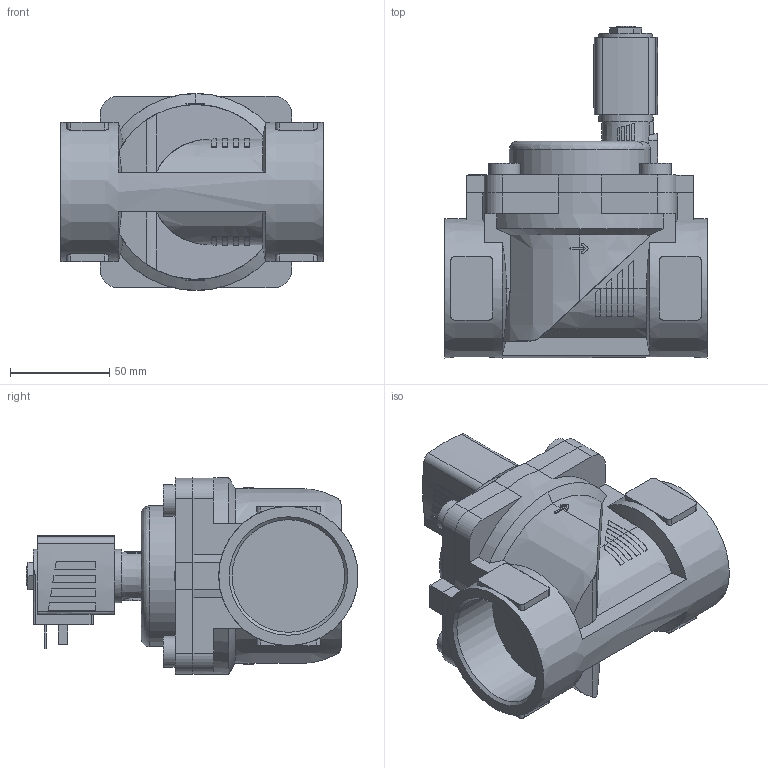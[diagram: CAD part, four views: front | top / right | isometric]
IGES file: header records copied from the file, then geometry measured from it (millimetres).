
Start section: Data from Parasolid IGES Translator 26.0.171, Copyright(c) 2006 Siemens PLM Software. All Rights Reserved.
Global section: file name: 6281-261654-2_2-Way_Solenoid_Valve__Servo-assisted__General_Purpose.igs; native system: By Siemens PLM Incorporated; preprocessor: XPlus GENERIC/IGES 26.0.171; author: Noname; organization: Noname; date: 20240906.091520; units: millimetre
Bounding box: 132 x 167 x 99 mm (x, y, z)
Surface area: 102616.7 mm2 (no closed solid volume)
Topology: 0 solids, 0 shells, 375 faces, 2004 edges, 1997 vertices
Faces by surface type: extrusion 246, revolution 129
